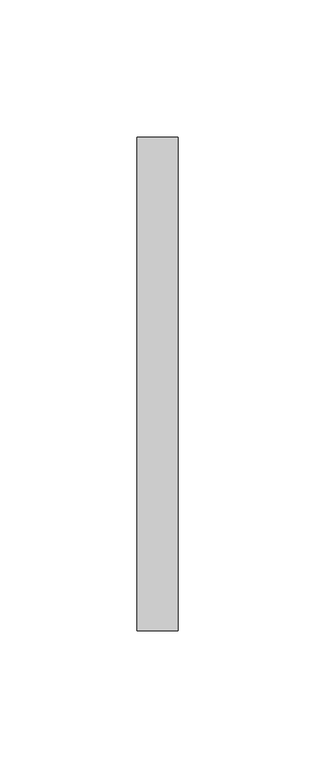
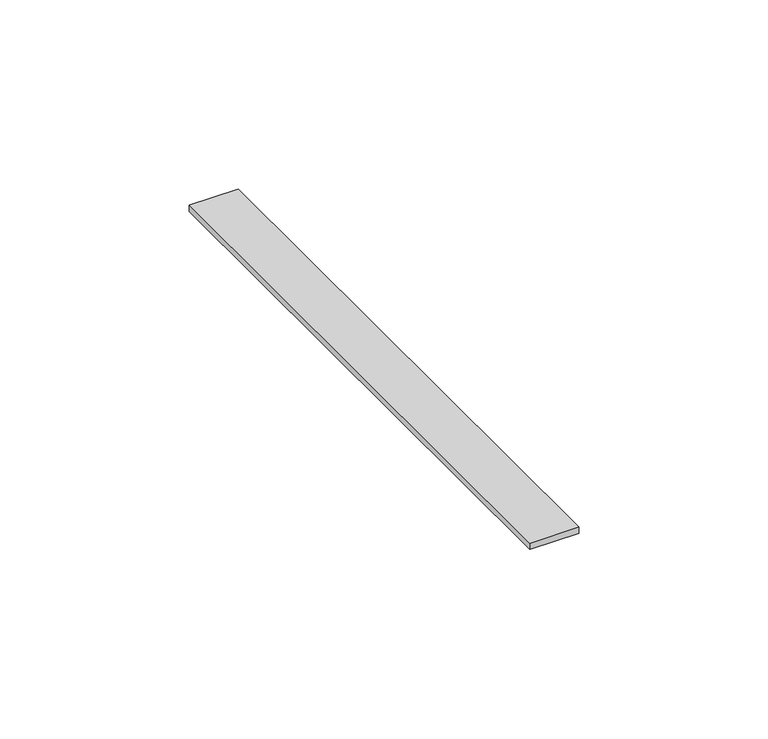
"""IFC4 building model written with IfcOpenShell, lengths in millimetres: duct fitting geometry, Накладка на стык - для крышек - для кабель-канала DLP - белый : 180мм."""

from ifc_helpers import new_model, si_unit, origin, origin_with_axes, place, context, project, spatial, polyline, outline, extrude, source, transform, mapped, element, save


def duct_fitting_35ec757b(model_context):
    return source(origin(), model_context, "Body", "SweptSolid", [
        extrude(outline(polyline([(7.5, 90.0), (7.5, -90.0), (-7.5, -90.0), (-7.5, 90.0), (7.5, 90.0)])), origin_with_axes(), (0.0, 0.0, 1.0), 2.0),
    ])


if __name__ == "__main__":
    model = new_model("IFC4")
    model_context = context("Model", 3, world=origin())
    ifc_project = project(units=[si_unit("LENGTHUNIT", "METRE", prefix="MILLI")], contexts=[model_context])
    site = spatial("IfcSite", under=ifc_project)
    building = spatial("IfcBuilding", under=site)
    placement = place(None, origin())
    duct_fitting_shape = duct_fitting_35ec757b(model_context)
    element("IfcDuctFitting", 1, ObjectType="Накладка на стык - для крышек - для кабель-канала DLP - белый : 180мм", at=placement, inside=building, context=model_context, shape_type="MappedRepresentation", body=[
        mapped(duct_fitting_shape, transform((0.0, 0.0, 0.0), x_axis=(1.0, 0.0, 0.0), y_axis=(0.0, 1.0, 0.0), z_axis=(0.0, 0.0, 1.0))),
    ])
    save(model, "model.ifc")
